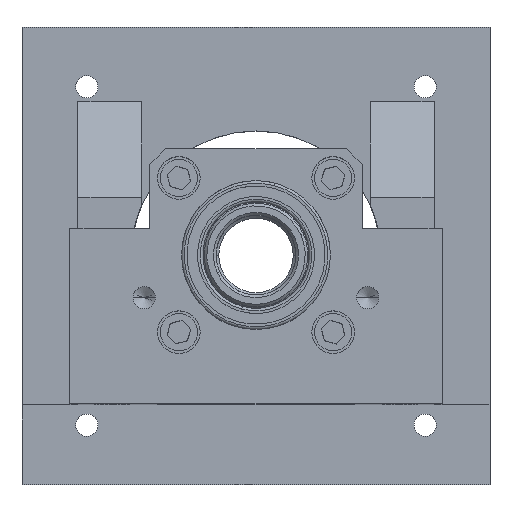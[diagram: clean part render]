
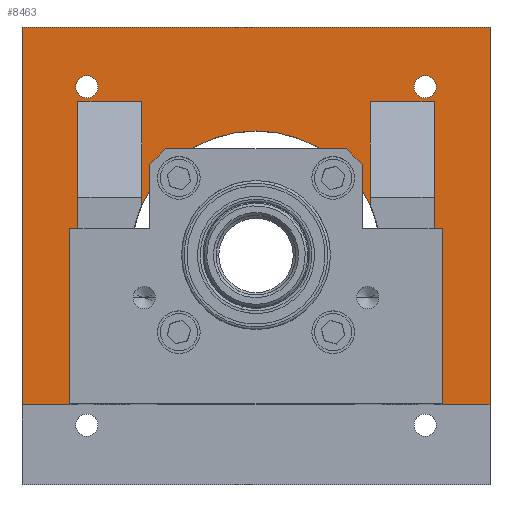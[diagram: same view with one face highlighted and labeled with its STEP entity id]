
A CAD part, top view. The second image highlights one B-rep face of the part: STEP entity #8463.
In plain terms, the highlighted planar face has unit normal (0, 0, 1).
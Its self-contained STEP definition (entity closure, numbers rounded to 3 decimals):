
#111 = ORIENTED_EDGE ( 'NONE', *, *, #9832, .F. ) ;
#174 = DIRECTION ( 'NONE',  ( -1., 0., 0. ) ) ;
#235 = EDGE_LOOP ( 'NONE', ( #11078, #10626 ) ) ;
#284 = VERTEX_POINT ( 'NONE', #466 ) ;
#316 = CARTESIAN_POINT ( 'NONE',  ( 21.5, 9.487, -92. ) ) ;
#350 = EDGE_LOOP ( 'NONE', ( #8067, #111 ) ) ;
#406 = LINE ( 'NONE', #2261, #11588 ) ;
#466 = CARTESIAN_POINT ( 'NONE',  ( 21.5, 29., -92. ) ) ;
#610 = DIRECTION ( 'NONE',  ( 1., 0., 0. ) ) ;
#794 = LINE ( 'NONE', #8988, #6385 ) ;
#852 = VERTEX_POINT ( 'NONE', #6654 ) ;
#961 = VECTOR ( 'NONE', #8458, 1000. ) ;
#1017 = VERTEX_POINT ( 'NONE', #1615 ) ;
#1119 = CARTESIAN_POINT ( 'NONE',  ( -44., -28., -92. ) ) ;
#1127 = AXIS2_PLACEMENT_3D ( 'NONE', #1654, #9472, #2761 ) ;
#1168 = VERTEX_POINT ( 'NONE', #3008 ) ;
#1175 = EDGE_CURVE ( 'NONE', #9390, #2875, #7241, .T. ) ;
#1197 = CARTESIAN_POINT ( 'NONE',  ( 29.72, 31.82, -92. ) ) ;
#1319 = DIRECTION ( 'NONE',  ( 0., 0., 1. ) ) ;
#1403 = VECTOR ( 'NONE', #1599, 1000. ) ;
#1480 = CARTESIAN_POINT ( 'NONE',  ( 44., -28., -92. ) ) ;
#1599 = DIRECTION ( 'NONE',  ( 0., -1., 0. ) ) ;
#1615 = CARTESIAN_POINT ( 'NONE',  ( -33.5, 29., -92. ) ) ;
#1654 = CARTESIAN_POINT ( 'NONE',  ( 31.82, 31.82, -92. ) ) ;
#1714 = ORIENTED_EDGE ( 'NONE', *, *, #6620, .F. ) ;
#1727 = ORIENTED_EDGE ( 'NONE', *, *, #12703, .F. ) ;
#1749 = EDGE_CURVE ( 'NONE', #10185, #10467, #7224, .T. ) ;
#1939 = DIRECTION ( 'NONE',  ( 0., 0., 1. ) ) ;
#2197 = ORIENTED_EDGE ( 'NONE', *, *, #11756, .T. ) ;
#2261 = CARTESIAN_POINT ( 'NONE',  ( 33.5, 4., -92. ) ) ;
#2291 = VECTOR ( 'NONE', #14100, 1000. ) ;
#2358 = EDGE_CURVE ( 'NONE', #8339, #9734, #5290, .T. ) ;
#2441 = CIRCLE ( 'NONE', #12112, 2.1 ) ;
#2475 = AXIS2_PLACEMENT_3D ( 'NONE', #8011, #1319, #9134 ) ;
#2526 = LINE ( 'NONE', #11300, #8127 ) ;
#2761 = DIRECTION ( 'NONE',  ( 1., 0., 0. ) ) ;
#2864 = EDGE_CURVE ( 'NONE', #10302, #284, #14222, .T. ) ;
#2875 = VERTEX_POINT ( 'NONE', #6264 ) ;
#2893 = PLANE ( 'NONE',  #5510 ) ;
#3008 = CARTESIAN_POINT ( 'NONE',  ( -33.92, 31.82, -92. ) ) ;
#3021 = FACE_OUTER_BOUND ( 'NONE', #9008, .T. ) ;
#3374 = FACE_BOUND ( 'NONE', #235, .T. ) ;
#3380 = DIRECTION ( 'NONE',  ( 0., -1., 0. ) ) ;
#3828 = LINE ( 'NONE', #12568, #10139 ) ;
#3871 = ORIENTED_EDGE ( 'NONE', *, *, #8756, .F. ) ;
#3883 = EDGE_CURVE ( 'NONE', #1168, #12202, #2441, .T. ) ;
#4281 = LINE ( 'NONE', #9587, #961 ) ;
#4500 = ORIENTED_EDGE ( 'NONE', *, *, #11441, .T. ) ;
#4875 = CARTESIAN_POINT ( 'NONE',  ( -33.5, 4., -92. ) ) ;
#5160 = DIRECTION ( 'NONE',  ( 0., 0., 1. ) ) ;
#5256 = VERTEX_POINT ( 'NONE', #7649 ) ;
#5290 = LINE ( 'NONE', #10782, #6850 ) ;
#5510 = AXIS2_PLACEMENT_3D ( 'NONE', #14073, #5160, #12993 ) ;
#5548 = CIRCLE ( 'NONE', #2475, 2.1 ) ;
#5708 = CARTESIAN_POINT ( 'NONE',  ( 44., 43., -92. ) ) ;
#5721 = DIRECTION ( 'NONE',  ( 0., 0., 1. ) ) ;
#5821 = CIRCLE ( 'NONE', #1127, 2.1 ) ;
#5859 = DIRECTION ( 'NONE',  ( -1., 0., 0. ) ) ;
#5876 = EDGE_CURVE ( 'NONE', #12202, #1168, #5548, .T. ) ;
#6000 = FACE_BOUND ( 'NONE', #350, .T. ) ;
#6005 = ORIENTED_EDGE ( 'NONE', *, *, #9045, .F. ) ;
#6114 = CARTESIAN_POINT ( 'NONE',  ( 21.5, 4., -92. ) ) ;
#6165 = ORIENTED_EDGE ( 'NONE', *, *, #2358, .T. ) ;
#6264 = CARTESIAN_POINT ( 'NONE',  ( -33.5, -28., -92. ) ) ;
#6385 = VECTOR ( 'NONE', #10133, 1000. ) ;
#6607 = VERTEX_POINT ( 'NONE', #10431 ) ;
#6620 = EDGE_CURVE ( 'NONE', #1017, #2875, #13423, .T. ) ;
#6654 = CARTESIAN_POINT ( 'NONE',  ( -44., 43., -92. ) ) ;
#6690 = DIRECTION ( 'NONE',  ( 1., 0., 0. ) ) ;
#6740 = ORIENTED_EDGE ( 'NONE', *, *, #7048, .T. ) ;
#6850 = VECTOR ( 'NONE', #8567, 1000. ) ;
#7048 = EDGE_CURVE ( 'NONE', #9734, #852, #2526, .T. ) ;
#7224 = CIRCLE ( 'NONE', #8795, 2.1 ) ;
#7241 = LINE ( 'NONE', #10867, #12485 ) ;
#7298 = DIRECTION ( 'NONE',  ( 0., 0., 1. ) ) ;
#7649 = CARTESIAN_POINT ( 'NONE',  ( 33.5, 29., -92. ) ) ;
#7861 = CIRCLE ( 'NONE', #11044, 23.5 ) ;
#7887 = LINE ( 'NONE', #1119, #10888 ) ;
#8011 = CARTESIAN_POINT ( 'NONE',  ( -31.82, 31.82, -92. ) ) ;
#8067 = ORIENTED_EDGE ( 'NONE', *, *, #1749, .F. ) ;
#8127 = VECTOR ( 'NONE', #174, 1000. ) ;
#8150 = ORIENTED_EDGE ( 'NONE', *, *, #12807, .F. ) ;
#8339 = VERTEX_POINT ( 'NONE', #1480 ) ;
#8458 = DIRECTION ( 'NONE',  ( -1., 0., 0. ) ) ;
#8463 = ADVANCED_FACE ( 'NONE', ( #3021, #3374, #6000 ), #2893, .T. ) ;
#8567 = DIRECTION ( 'NONE',  ( 0., 1., 0. ) ) ;
#8631 = CARTESIAN_POINT ( 'NONE',  ( 31.82, 31.82, -92. ) ) ;
#8720 = ORIENTED_EDGE ( 'NONE', *, *, #2864, .T. ) ;
#8756 = EDGE_CURVE ( 'NONE', #6607, #11660, #794, .T. ) ;
#8795 = AXIS2_PLACEMENT_3D ( 'NONE', #8631, #1939, #9764 ) ;
#8988 = CARTESIAN_POINT ( 'NONE',  ( -21.5, 4., -92. ) ) ;
#9008 = EDGE_LOOP ( 'NONE', ( #4500, #6165, #6740, #2197, #9821, #1714, #8150, #3871, #1727, #8720, #6005, #10869 ) ) ;
#9045 = EDGE_CURVE ( 'NONE', #5256, #284, #4281, .T. ) ;
#9102 = CARTESIAN_POINT ( 'NONE',  ( -29.72, 31.82, -92. ) ) ;
#9134 = DIRECTION ( 'NONE',  ( 1., 0., 0. ) ) ;
#9390 = VERTEX_POINT ( 'NONE', #12814 ) ;
#9472 = DIRECTION ( 'NONE',  ( 0., 0., 1. ) ) ;
#9587 = CARTESIAN_POINT ( 'NONE',  ( -44., 29., -92. ) ) ;
#9734 = VERTEX_POINT ( 'NONE', #5708 ) ;
#9764 = DIRECTION ( 'NONE',  ( 1., 0., 0. ) ) ;
#9821 = ORIENTED_EDGE ( 'NONE', *, *, #1175, .T. ) ;
#9832 = EDGE_CURVE ( 'NONE', #10467, #10185, #5821, .T. ) ;
#10078 = VECTOR ( 'NONE', #12686, 1000. ) ;
#10133 = DIRECTION ( 'NONE',  ( 0., 1., 0. ) ) ;
#10139 = VECTOR ( 'NONE', #5859, 1000. ) ;
#10185 = VERTEX_POINT ( 'NONE', #1197 ) ;
#10302 = VERTEX_POINT ( 'NONE', #316 ) ;
#10324 = LINE ( 'NONE', #12749, #1403 ) ;
#10431 = CARTESIAN_POINT ( 'NONE',  ( -21.5, 9.487, -92. ) ) ;
#10467 = VERTEX_POINT ( 'NONE', #11805 ) ;
#10626 = ORIENTED_EDGE ( 'NONE', *, *, #5876, .F. ) ;
#10782 = CARTESIAN_POINT ( 'NONE',  ( 44., -43., -92. ) ) ;
#10867 = CARTESIAN_POINT ( 'NONE',  ( -44., -28., -92. ) ) ;
#10869 = ORIENTED_EDGE ( 'NONE', *, *, #13754, .T. ) ;
#10888 = VECTOR ( 'NONE', #6690, 1000. ) ;
#11044 = AXIS2_PLACEMENT_3D ( 'NONE', #12428, #5721, #13562 ) ;
#11078 = ORIENTED_EDGE ( 'NONE', *, *, #3883, .F. ) ;
#11159 = VERTEX_POINT ( 'NONE', #14151 ) ;
#11300 = CARTESIAN_POINT ( 'NONE',  ( 44., 43., -92. ) ) ;
#11441 = EDGE_CURVE ( 'NONE', #11159, #8339, #7887, .T. ) ;
#11513 = CARTESIAN_POINT ( 'NONE',  ( -21.5, 29., -92. ) ) ;
#11588 = VECTOR ( 'NONE', #3380, 1000. ) ;
#11660 = VERTEX_POINT ( 'NONE', #11513 ) ;
#11756 = EDGE_CURVE ( 'NONE', #852, #9390, #10324, .T. ) ;
#11805 = CARTESIAN_POINT ( 'NONE',  ( 33.92, 31.82, -92. ) ) ;
#11975 = DIRECTION ( 'NONE',  ( 1., 0., 0. ) ) ;
#12112 = AXIS2_PLACEMENT_3D ( 'NONE', #14013, #7298, #610 ) ;
#12202 = VERTEX_POINT ( 'NONE', #9102 ) ;
#12428 = CARTESIAN_POINT ( 'NONE',  ( 0., 0., -92. ) ) ;
#12485 = VECTOR ( 'NONE', #11975, 1000. ) ;
#12568 = CARTESIAN_POINT ( 'NONE',  ( -44., 29., -92. ) ) ;
#12686 = DIRECTION ( 'NONE',  ( 0., -1., 0. ) ) ;
#12703 = EDGE_CURVE ( 'NONE', #10302, #6607, #7861, .T. ) ;
#12749 = CARTESIAN_POINT ( 'NONE',  ( -44., -43., -92. ) ) ;
#12807 = EDGE_CURVE ( 'NONE', #11660, #1017, #3828, .T. ) ;
#12814 = CARTESIAN_POINT ( 'NONE',  ( -44., -28., -92. ) ) ;
#12993 = DIRECTION ( 'NONE',  ( 1., 0., 0. ) ) ;
#13423 = LINE ( 'NONE', #4875, #10078 ) ;
#13562 = DIRECTION ( 'NONE',  ( 1., 0., 0. ) ) ;
#13754 = EDGE_CURVE ( 'NONE', #5256, #11159, #406, .T. ) ;
#14013 = CARTESIAN_POINT ( 'NONE',  ( -31.82, 31.82, -92. ) ) ;
#14073 = CARTESIAN_POINT ( 'NONE',  ( -44., 43., -92. ) ) ;
#14100 = DIRECTION ( 'NONE',  ( 0., 1., 0. ) ) ;
#14151 = CARTESIAN_POINT ( 'NONE',  ( 33.5, -28., -92. ) ) ;
#14222 = LINE ( 'NONE', #6114, #2291 ) ;
